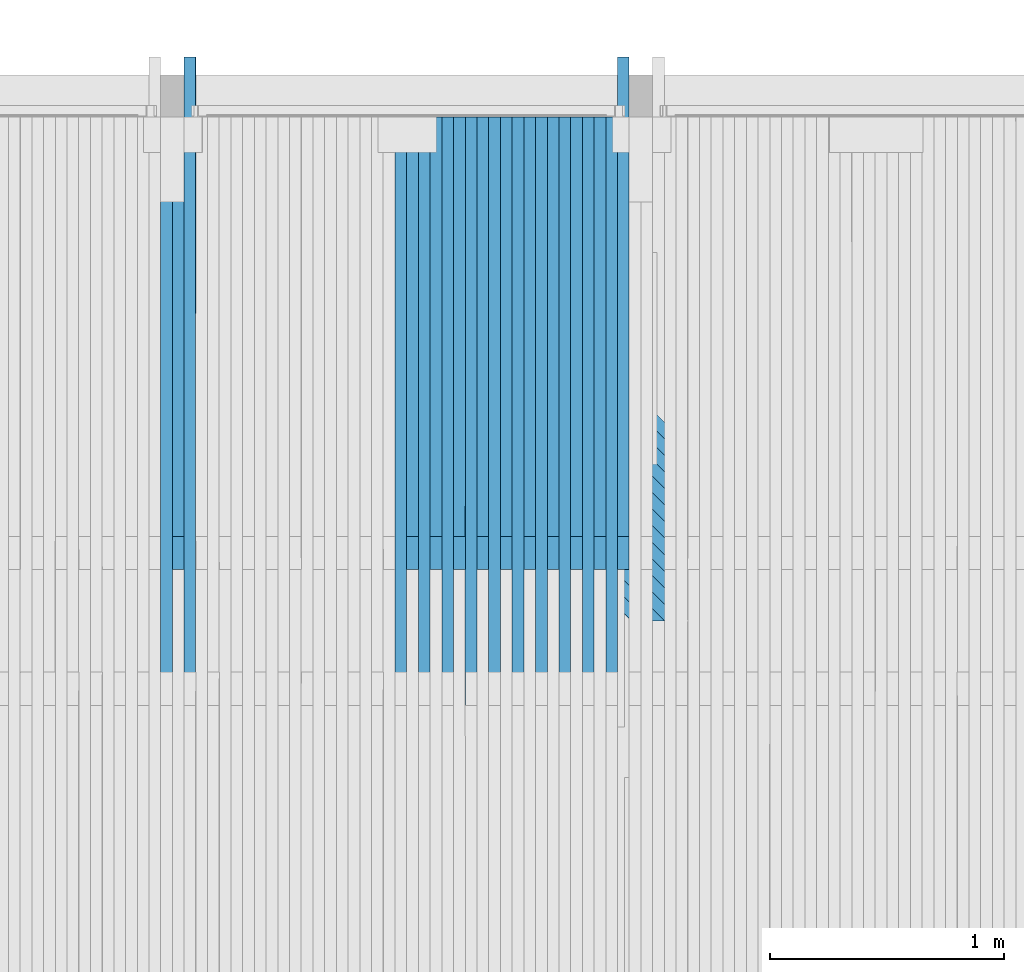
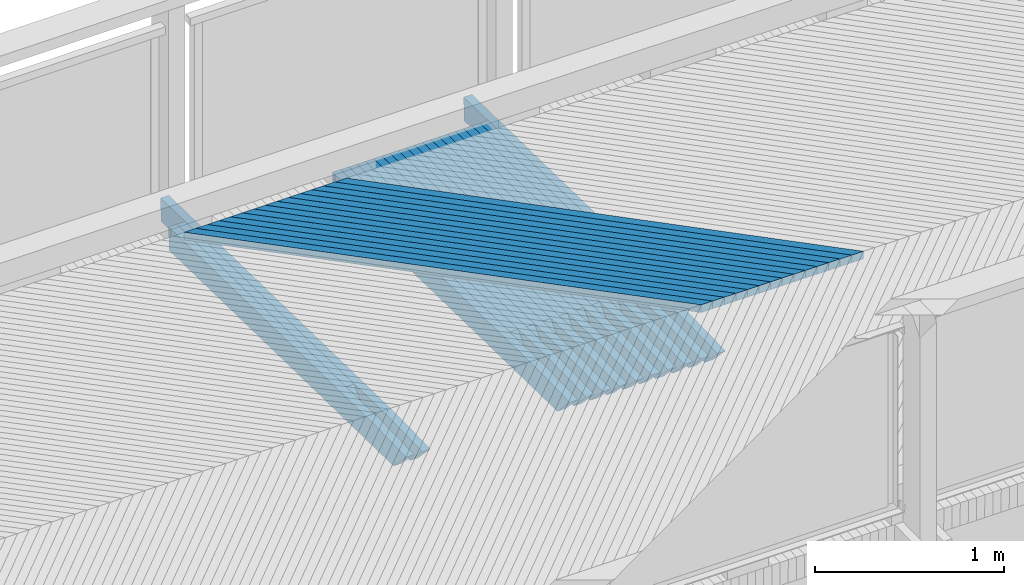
# One storey, part 27 of 65: 37 beams.
"""IFC2X3 building model written with IfcOpenShell, lengths in millimetres."""

from ifc_helpers import new_model, si_unit, frame, origin_with_axes, place, context, subcontext, project, spatial, faceted_brep, material, type_object, element, save


model = new_model("IFC2X3")

# Units and contexts
model_context = context("Model", 3, precision=1e-05, world=origin_with_axes())
body_context = subcontext(model_context, "Body", "Model", "MODEL_VIEW")
ifc_project = project(units=[si_unit("LENGTHUNIT", "METRE", prefix="MILLI"), si_unit("AREAUNIT", "SQUARE_METRE"), si_unit("VOLUMEUNIT", "CUBIC_METRE"), si_unit("MASSUNIT", "GRAM", prefix="KILO"), si_unit("TIMEUNIT", "SECOND"), si_unit("PLANEANGLEUNIT", "RADIAN"), si_unit("SOLIDANGLEUNIT", "STERADIAN"), si_unit("THERMODYNAMICTEMPERATUREUNIT", "DEGREE_CELSIUS"), si_unit("LUMINOUSINTENSITYUNIT", "LUMEN")], contexts=[model_context])

# Site, building, storey
site_placement = place(None, origin_with_axes())
site = spatial("IfcSite", under=ifc_project, at=site_placement, Name="Undefined", CompositionType="ELEMENT")
building_placement = place(site_placement, origin_with_axes())
building = spatial("IfcBuilding", under=site, at=building_placement, Name="Undefined", CompositionType="ELEMENT")
storey_placement = place(building_placement, origin_with_axes())
storey = spatial("IfcBuildingStorey", under=building, at=storey_placement, Name="Undefined", CompositionType="ELEMENT", Elevation=0.0)

# Beams
ifc_material = material(Name="TIMBER/Timber_Undefined")
beam_type_1 = type_object("IfcBeamType", Name="50*50", PredefinedType="NOTDEFINED")
for number, where, z_axis, x_axis, name in (
    (1, (8913.77277485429, 22365.4998996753, 3235.42868074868), (0.707094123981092, 0.706981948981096, -0.0139435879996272), (-0.707119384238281, 0.706948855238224, -0.0143350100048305), "BEAM"),
    (2, (8843.04861667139, 22365.4998996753, 3235.53185944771), (0.707095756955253, 0.70698194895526, -0.013860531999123), (-0.7071176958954, 0.706948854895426, -0.0144180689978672), "BEAM"),
    (3, (8772.32444685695, 22365.4998996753, 3235.62673083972), (0.707097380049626, 0.706981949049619, -0.0137774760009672), (-0.707115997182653, 0.70694885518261, -0.0145011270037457), "BEAM"),
    (4, (8701.60026638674, 22365.4998996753, 3235.71329492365), (0.707098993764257, 0.706981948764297, -0.0136944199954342), (-0.707114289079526, 0.706948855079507, -0.0145841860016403), "BEAM"),
    (5, (8630.87607623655, 22365.4998996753, 3235.79155169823), (0.707100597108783, 0.706981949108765, -0.013611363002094), (-0.707112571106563, 0.706948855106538, -0.0146672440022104), "BEAM"),
    (6, (8560.15187738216, 22365.4998996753, 3235.86150116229), (0.707102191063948, 0.706981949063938, -0.0135283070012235), (-0.707110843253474, 0.706948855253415, -0.0147503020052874), "BEAM"),
    (7, (8489.42767079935, 22365.4998996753, 3235.9231433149), (0.707103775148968, 0.706981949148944, -0.0134452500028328), (-0.707109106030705, 0.706948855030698, -0.0148333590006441), "BEAM"),
    (8, (8418.7034574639, 22365.4998996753, 3235.97647815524), (0.707105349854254, 0.706981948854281, -0.0133621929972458), (-0.70710735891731, 0.706948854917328, -0.0149164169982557), "BEAM"),
    (9, (8347.9792383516, 22365.4998996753, 3236.02150568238), (0.707106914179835, 0.706981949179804, -0.0132791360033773), (-0.707105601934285, 0.7069488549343, -0.014999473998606), "BEAM"),
    (10, (8277.25501443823, 22365.4998996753, 3236.05822589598), (0.707108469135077, 0.706981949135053, -0.0131960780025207), (-0.707103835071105, 0.706948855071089, -0.0150825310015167), "BEAM"),
    (11, (8206.53078669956, 22365.4998996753, 3236.08663879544), (0.707110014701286, 0.706981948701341, -0.0131130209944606), (-0.707102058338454, 0.706948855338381, -0.015165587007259), "BEAM"),
    (12, (8135.80655611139, 22365.4998996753, 3236.10674438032), (0.707111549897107, 0.706981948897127, -0.0130299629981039), (-0.707100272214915, 0.706948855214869, -0.0152486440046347), "BEAM"),
    (13, (8065.0823236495, 22365.4998996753, 3236.11854265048), (0.70711307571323, 0.706981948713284, -0.0129469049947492), (-0.70709847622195, 0.706948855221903, -0.0153317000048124), "BEAM"),
    (14, (7994.35809028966, 22365.4998996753, 3236.12203360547), (0.707114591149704, 0.706981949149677, -0.0128638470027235), (-0.707096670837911, 0.706948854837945, -0.0154147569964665), "BEAM"),
):
    element("IfcBeam", number, at=place(storey_placement, frame(where, z_axis=z_axis, x_axis=x_axis)), inside=storey, type_object=beam_type_1, material=ifc_material, Name=name, ObjectType="50*50", context=body_context, shape_type="Brep", body=[
        faceted_brep([(23.5869248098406, 24.9999999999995, -24.9999999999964), (-26.4154158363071, 24.9999999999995, 24.9999999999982), (2802.92643296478, 25.0, 25.0), (2852.92877373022, 25.0000000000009, -25.0), (-25.0011704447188, -25.0, 24.9999999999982), (2804.34067830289, -25.0, 25.0000000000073), (25.0011701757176, -25.0000000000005, -24.9999999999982), (2854.34301907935, -24.9999999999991, -25.0000000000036)], [[[0, 1, 2, 3]], [[1, 4, 5, 2]], [[4, 6, 7, 5]], [[6, 0, 3, 7]], [[5, 7, 3, 2]], [[6, 4, 1, 0]]]),
    ])
beam_type_2 = type_object("IfcBeamType", Name="150*50", PredefinedType="NOTDEFINED")
for number, where, z_axis, x_axis, name in (
    (15, (7875.75102646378, 24513.4953923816, 3093.13715307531), (-0.000287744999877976, 0.0199960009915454, 0.999800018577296), (-5.75600000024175e-06, -0.999800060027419, 0.0199959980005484), "BEAM"),
    (16, (7775.73099692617, 24513.4953923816, 3093.10819901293), (-0.000453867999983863, 0.0199960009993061, 0.999799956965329), (-9.07800000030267e-06, -0.999800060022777, 0.0199959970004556), "BEAM"),
):
    element("IfcBeam", number, at=place(storey_placement, frame(where, z_axis=z_axis, x_axis=x_axis)), inside=storey, type_object=beam_type_2, material=ifc_material, Name=name, ObjectType="150*50", context=body_context, shape_type="Brep", body=[
        faceted_brep([(-1.6778358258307e-07, -24.9999999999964, -74.9999999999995), (-1.6778358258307e-07, 25.0000000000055, -75.0), (2375.00494422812, 25.0000000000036, -75.0), (2375.00494447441, -24.9999999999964, -74.9999999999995), (1.67790858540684e-07, -24.9999999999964, 75.0000000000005), (1.67790858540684e-07, 25.0000000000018, 74.9999999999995), (2150.42515052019, 25.0000000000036, 74.9999999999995), (2510.59248715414, 25.0000000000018, 60.5875433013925), (2510.59248714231, -24.9999999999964, 60.5875430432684), (2150.42514405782, -24.9999999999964, 75.0000000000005)], [[[0, 1, 2, 3]], [[0, 4, 5, 1]], [[2, 1, 5, 6, 7]], [[3, 2, 7, 8]], [[4, 0, 3, 8, 9]], [[5, 4, 9, 6]], [[8, 7, 6, 9]]]),
    ])
beam_1_placement = place(storey_placement, frame((7825.75102780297, 24513.4953923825, 3093.12259668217), z_axis=(-0.000287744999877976, 0.0199960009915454, 0.999800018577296), x_axis=(-5.75600000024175e-06, -0.999800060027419, 0.0199959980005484)))
element("IfcBeam", 17, at=beam_1_placement, inside=storey, type_object=beam_type_2, material=ifc_material, Name="BEAM", ObjectType="150*50", context=body_context, shape_type="Brep", body=[
    faceted_brep([(-1.6778358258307e-07, -24.9999999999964, -74.9999999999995), (1.67790858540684e-07, -24.9999999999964, 75.0000000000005), (1.67790858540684e-07, 25.0000000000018, 74.9999999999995), (-1.6778358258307e-07, 25.0000000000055, -75.0), (1789.96936408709, 24.9999999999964, 75.0), (1928.42646328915, 24.9999999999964, -75.0), (1928.42646353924, -25.0, -75.0000000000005), (1789.96936433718, -25.0000000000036, 74.9999999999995)], [[[0, 1, 2, 3]], [[3, 2, 4, 5]], [[0, 3, 5, 6]], [[1, 0, 6, 7]], [[2, 1, 7, 4]], [[5, 4, 7, 6]]]),
])
beam_2_placement = place(storey_placement, frame((7675.71097358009, 24513.4953923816, 3093.06262608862), z_axis=(-0.000619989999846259, 0.0199960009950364, 0.999799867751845), x_axis=(-1.24010000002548e-05, -0.99980006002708, 0.0199959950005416)))
element("IfcBeam", 18, at=beam_2_placement, inside=storey, type_object=beam_type_2, material=ifc_material, Name="BEAM", ObjectType="150*50", context=body_context, shape_type="Brep", body=[
    faceted_brep([(-1.6778358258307e-07, -24.9999999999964, -74.9999999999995), (-1.6778358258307e-07, 25.0000000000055, -75.0), (2375.00494422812, 25.0000000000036, -75.0), (2375.00494447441, -24.9999999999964, -74.9999999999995), (1.67790858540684e-07, -24.9999999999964, 75.0000000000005), (1.67790858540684e-07, 25.0000000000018, 74.9999999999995), (2150.42515052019, 25.0000000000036, 74.9999999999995), (2510.59248715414, 25.0000000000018, 60.5875433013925), (2510.59248714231, -24.9999999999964, 60.5875430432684), (2150.42514405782, -24.9999999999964, 75.0000000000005)], [[[0, 1, 2, 3]], [[0, 4, 5, 1]], [[2, 1, 5, 6, 7]], [[3, 2, 7, 8]], [[4, 0, 3, 8, 9]], [[5, 4, 9, 6]], [[8, 7, 6, 9]]]),
])
beam_3_placement = place(storey_placement, frame((7725.73100137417, 24513.4953923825, 3093.08533485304), z_axis=(-0.000453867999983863, 0.0199960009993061, 0.999799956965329), x_axis=(-9.07800000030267e-06, -0.999800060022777, 0.0199959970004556)))
element("IfcBeam", 19, at=beam_3_placement, inside=storey, type_object=beam_type_2, material=ifc_material, Name="BEAM", ObjectType="150*50", context=body_context, shape_type="Brep", body=[
    faceted_brep([(-1.6778358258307e-07, -24.9999999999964, -74.9999999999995), (1.67790858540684e-07, -24.9999999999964, 75.0000000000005), (1.67790858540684e-07, 25.0000000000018, 74.9999999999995), (-1.6778358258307e-07, 25.0000000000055, -75.0), (1789.96936408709, 24.9999999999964, 75.0), (1928.42646328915, 24.9999999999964, -75.0), (1928.42646353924, -25.0, -75.0000000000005), (1789.96936433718, -25.0000000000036, 74.9999999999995)], [[[0, 1, 2, 3]], [[3, 2, 4, 5]], [[0, 3, 5, 6]], [[1, 0, 6, 7]], [[2, 1, 7, 4]], [[5, 4, 7, 6]]]),
])
beam_4_placement = place(storey_placement, frame((7575.69095918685, 24513.4953923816, 3093.00043430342), z_axis=(-0.00078611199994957, 0.0199960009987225, 0.999799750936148), x_axis=(-1.57230000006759e-05, -0.999800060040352, 0.019995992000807)))
element("IfcBeam", 20, at=beam_4_placement, inside=storey, type_object=beam_type_2, material=ifc_material, Name="BEAM", ObjectType="150*50", context=body_context, shape_type="Brep", body=[
    faceted_brep([(-1.6778358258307e-07, -24.9999999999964, -74.9999999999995), (-1.6778358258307e-07, 25.0000000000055, -75.0), (2375.00494422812, 25.0000000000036, -75.0), (2375.00494447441, -24.9999999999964, -74.9999999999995), (1.67790858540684e-07, -24.9999999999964, 75.0000000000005), (1.67790858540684e-07, 25.0000000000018, 74.9999999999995), (2150.42515052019, 25.0000000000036, 74.9999999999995), (2510.59248715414, 25.0000000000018, 60.5875433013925), (2510.59248714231, -24.9999999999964, 60.5875430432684), (2150.42514405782, -24.9999999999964, 75.0000000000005)], [[[0, 1, 2, 3]], [[0, 4, 5, 1]], [[2, 1, 5, 6, 7]], [[3, 2, 7, 8]], [[4, 0, 3, 8, 9]], [[5, 4, 9, 6]], [[8, 7, 6, 9]]]),
])
beam_5_placement = place(storey_placement, frame((7625.71098251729, 24513.4953923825, 3093.03145416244), z_axis=(-0.000619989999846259, 0.0199960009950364, 0.999799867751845), x_axis=(-1.24010000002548e-05, -0.99980006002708, 0.0199959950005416)))
element("IfcBeam", 21, at=beam_5_placement, inside=storey, type_object=beam_type_2, material=ifc_material, Name="BEAM", ObjectType="150*50", context=body_context, shape_type="Brep", body=[
    faceted_brep([(-1.6778358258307e-07, -24.9999999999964, -74.9999999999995), (1.67790858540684e-07, -24.9999999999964, 75.0000000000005), (1.67790858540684e-07, 25.0000000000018, 74.9999999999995), (-1.6778358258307e-07, 25.0000000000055, -75.0), (1789.96936408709, 24.9999999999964, 75.0), (1928.42646328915, 24.9999999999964, -75.0), (1928.42646353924, -25.0, -75.0000000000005), (1789.96936433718, -25.0000000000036, 74.9999999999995)], [[[0, 1, 2, 3]], [[3, 2, 4, 5]], [[0, 3, 5, 6]], [[1, 0, 6, 7]], [[2, 1, 7, 4]], [[5, 4, 7, 6]]]),
])
beam_6_placement = place(storey_placement, frame((7475.67095650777, 24513.4953923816, 3092.92162365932), z_axis=(-0.000952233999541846, 0.0199960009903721, 0.999799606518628), x_axis=(-1.90460000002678e-05, -0.999800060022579, 0.0199959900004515)))
element("IfcBeam", 22, at=beam_6_placement, inside=storey, type_object=beam_type_2, material=ifc_material, Name="BEAM", ObjectType="150*50", context=body_context, shape_type="Brep", body=[
    faceted_brep([(-1.6778358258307e-07, -24.9999999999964, -74.9999999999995), (-1.6778358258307e-07, 25.0000000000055, -75.0), (2375.00494422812, 25.0000000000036, -75.0), (2375.00494447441, -24.9999999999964, -74.9999999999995), (1.67790858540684e-07, -24.9999999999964, 75.0000000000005), (1.67790858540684e-07, 25.0000000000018, 74.9999999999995), (2150.42515052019, 25.0000000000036, 74.9999999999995), (2510.59248715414, 25.0000000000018, 60.5875433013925), (2510.59248714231, -24.9999999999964, 60.5875430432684), (2150.42514405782, -24.9999999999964, 75.0000000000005)], [[[0, 1, 2, 3]], [[0, 4, 5, 1]], [[2, 1, 5, 6, 7]], [[3, 2, 7, 8]], [[4, 0, 3, 8, 9]], [[5, 4, 9, 6]], [[8, 7, 6, 9]]]),
])
beam_7_placement = place(storey_placement, frame((7525.69097399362, 24513.4953923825, 3092.96095461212), z_axis=(-0.00078611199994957, 0.0199960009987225, 0.999799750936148), x_axis=(-1.57230000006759e-05, -0.999800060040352, 0.019995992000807)))
element("IfcBeam", 23, at=beam_7_placement, inside=storey, type_object=beam_type_2, material=ifc_material, Name="BEAM", ObjectType="150*50", context=body_context, shape_type="Brep", body=[
    faceted_brep([(-1.6778358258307e-07, -24.9999999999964, -74.9999999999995), (1.67790858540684e-07, -24.9999999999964, 75.0000000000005), (1.67790858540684e-07, 25.0000000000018, 74.9999999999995), (-1.6778358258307e-07, 25.0000000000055, -75.0), (1789.96936408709, 24.9999999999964, 75.0), (1928.42646328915, 24.9999999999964, -75.0), (1928.42646353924, -25.0, -75.0000000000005), (1789.96936433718, -25.0000000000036, 74.9999999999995)], [[[0, 1, 2, 3]], [[3, 2, 4, 5]], [[0, 3, 5, 6]], [[1, 0, 6, 7]], [[2, 1, 7, 4]], [[5, 4, 7, 6]]]),
])
beam_8_placement = place(storey_placement, frame((7375.65096830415, 24513.4953923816, 3092.82619415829), z_axis=(-0.00111835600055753, 0.019996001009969, 0.999799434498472), x_axis=(-2.23680000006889e-05, -0.999800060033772, 0.0199959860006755)))
element("IfcBeam", 24, at=beam_8_placement, inside=storey, type_object=beam_type_2, material=ifc_material, Name="BEAM", ObjectType="150*50", context=body_context, shape_type="Brep", body=[
    faceted_brep([(-1.6778358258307e-07, -24.9999999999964, -74.9999999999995), (-1.6778358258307e-07, 25.0000000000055, -75.0), (2375.00494422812, 25.0000000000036, -75.0), (2375.00494447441, -24.9999999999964, -74.9999999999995), (1.67790858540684e-07, -24.9999999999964, 75.0000000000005), (1.67790858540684e-07, 25.0000000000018, 74.9999999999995), (2150.42515052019, 25.0000000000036, 74.9999999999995), (2510.59248715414, 25.0000000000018, 60.5875433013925), (2510.59248714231, -24.9999999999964, 60.5875430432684), (2150.42514405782, -24.9999999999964, 75.0000000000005)], [[[0, 1, 2, 3]], [[0, 4, 5, 1]], [[2, 1, 5, 6, 7]], [[3, 2, 7, 8]], [[4, 0, 3, 8, 9]], [[5, 4, 9, 6]], [[8, 7, 6, 9]]]),
])
beam_9_placement = place(storey_placement, frame((7425.67097856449, 24513.4953923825, 3092.87383620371), z_axis=(-0.000952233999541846, 0.0199960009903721, 0.999799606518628), x_axis=(-1.90460000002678e-05, -0.999800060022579, 0.0199959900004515)))
element("IfcBeam", 25, at=beam_9_placement, inside=storey, type_object=beam_type_2, material=ifc_material, Name="BEAM", ObjectType="150*50", context=body_context, shape_type="Brep", body=[
    faceted_brep([(-1.6778358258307e-07, -24.9999999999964, -74.9999999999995), (1.67790858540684e-07, -24.9999999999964, 75.0000000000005), (1.67790858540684e-07, 25.0000000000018, 74.9999999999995), (-1.6778358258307e-07, 25.0000000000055, -75.0), (1789.96936408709, 24.9999999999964, 75.0), (1928.42646328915, 24.9999999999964, -75.0), (1928.42646353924, -25.0, -75.0000000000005), (1789.96936433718, -25.0000000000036, 74.9999999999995)], [[[0, 1, 2, 3]], [[3, 2, 4, 5]], [[0, 3, 5, 6]], [[1, 0, 6, 7]], [[2, 1, 7, 4]], [[5, 4, 7, 6]]]),
])
beam_10_placement = place(storey_placement, frame((7275.63099733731, 24513.4953923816, 3092.71414580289), z_axis=(-0.00128447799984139, 0.0199960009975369, 0.99979923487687), x_axis=(-2.56900000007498e-05, -0.999800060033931, 0.0199959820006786)))
element("IfcBeam", 26, at=beam_10_placement, inside=storey, type_object=beam_type_2, material=ifc_material, Name="BEAM", ObjectType="150*50", context=body_context, shape_type="Brep", body=[
    faceted_brep([(-1.6778358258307e-07, -24.9999999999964, -74.9999999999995), (-1.6778358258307e-07, 25.0000000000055, -75.0), (2375.00494422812, 25.0000000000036, -75.0), (2375.00494447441, -24.9999999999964, -74.9999999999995), (1.67790858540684e-07, -24.9999999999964, 75.0000000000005), (1.67790858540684e-07, 25.0000000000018, 74.9999999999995), (2150.42515052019, 25.0000000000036, 74.9999999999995), (2510.59248715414, 25.0000000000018, 60.5875433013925), (2510.59248714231, -24.9999999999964, 60.5875430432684), (2150.42514405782, -24.9999999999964, 75.0000000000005)], [[[0, 1, 2, 3]], [[0, 4, 5, 1]], [[2, 1, 5, 6, 7]], [[3, 2, 7, 8]], [[4, 0, 3, 8, 9]], [[5, 4, 9, 6]], [[8, 7, 6, 9]]]),
])
beam_11_placement = place(storey_placement, frame((7325.6509989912, 24513.4953923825, 3092.77009893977), z_axis=(-0.00111835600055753, 0.019996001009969, 0.999799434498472), x_axis=(-2.23680000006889e-05, -0.999800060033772, 0.0199959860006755)))
element("IfcBeam", 27, at=beam_11_placement, inside=storey, type_object=beam_type_2, material=ifc_material, Name="BEAM", ObjectType="150*50", context=body_context, shape_type="Brep", body=[
    faceted_brep([(-1.6778358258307e-07, -24.9999999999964, -74.9999999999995), (1.67790858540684e-07, -24.9999999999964, 75.0000000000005), (1.67790858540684e-07, 25.0000000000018, 74.9999999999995), (-1.6778358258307e-07, 25.0000000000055, -75.0), (1789.96936408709, 24.9999999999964, 75.0), (1928.42646328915, 24.9999999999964, -75.0), (1928.42646353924, -25.0, -75.0000000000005), (1789.96936433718, -25.0000000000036, 74.9999999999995)], [[[0, 1, 2, 3]], [[3, 2, 4, 5]], [[0, 3, 5, 6]], [[1, 0, 6, 7]], [[2, 1, 7, 4]], [[5, 4, 7, 6]]]),
])
beam_12_placement = place(storey_placement, frame((7175.61104636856, 24513.4953923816, 3092.58547859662), z_axis=(-0.00145059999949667, 0.0199960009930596, 0.999799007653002), x_axis=(-2.90130000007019e-05, -0.999800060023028, 0.0199959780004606)))
element("IfcBeam", 28, at=beam_12_placement, inside=storey, type_object=beam_type_2, material=ifc_material, Name="BEAM", ObjectType="150*50", context=body_context, shape_type="Brep", body=[
    faceted_brep([(-1.6778358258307e-07, -24.9999999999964, -74.9999999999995), (-1.6778358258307e-07, 25.0000000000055, -75.0), (2375.00494422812, 25.0000000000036, -75.0), (2375.00494447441, -24.9999999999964, -74.9999999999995), (1.67790858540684e-07, -24.9999999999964, 75.0000000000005), (1.67790858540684e-07, 25.0000000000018, 74.9999999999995), (2150.42515052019, 25.0000000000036, 74.9999999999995), (2510.59248715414, 25.0000000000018, 60.5875433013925), (2510.59248714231, -24.9999999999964, 60.5875430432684), (2150.42514405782, -24.9999999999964, 75.0000000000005)], [[[0, 1, 2, 3]], [[0, 4, 5, 1]], [[2, 1, 5, 6, 7]], [[3, 2, 7, 8]], [[4, 0, 3, 8, 9]], [[5, 4, 9, 6]], [[8, 7, 6, 9]]]),
])
beam_13_placement = place(storey_placement, frame((7225.63103803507, 24513.4953923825, 3092.64974282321), z_axis=(-0.00128447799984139, 0.0199960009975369, 0.99979923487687), x_axis=(-2.56900000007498e-05, -0.999800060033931, 0.0199959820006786)))
element("IfcBeam", 29, at=beam_13_placement, inside=storey, type_object=beam_type_2, material=ifc_material, Name="BEAM", ObjectType="150*50", context=body_context, shape_type="Brep", body=[
    faceted_brep([(-1.6778358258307e-07, -24.9999999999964, -74.9999999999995), (1.67790858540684e-07, -24.9999999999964, 75.0000000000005), (1.67790858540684e-07, 25.0000000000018, 74.9999999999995), (-1.6778358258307e-07, 25.0000000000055, -75.0), (1789.96936408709, 24.9999999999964, 75.0), (1928.42646328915, 24.9999999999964, -75.0), (1928.42646353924, -25.0, -75.0000000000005), (1789.96936433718, -25.0000000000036, 74.9999999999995)], [[[0, 1, 2, 3]], [[3, 2, 4, 5]], [[0, 3, 5, 6]], [[1, 0, 6, 7]], [[2, 1, 7, 4]], [[5, 4, 7, 6]]]),
])
beam_14_placement = place(storey_placement, frame((7075.5911181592, 24513.4953923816, 3092.44019254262), z_axis=(-0.00161672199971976, 0.0199960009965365, 0.999798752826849), x_axis=(-3.23350000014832e-05, -0.999800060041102, 0.019995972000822)))
element("IfcBeam", 30, at=beam_14_placement, inside=storey, type_object=beam_type_2, material=ifc_material, Name="BEAM", ObjectType="150*50", context=body_context, shape_type="Brep", body=[
    faceted_brep([(-1.6778358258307e-07, -24.9999999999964, -74.9999999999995), (-1.6778358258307e-07, 25.0000000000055, -75.0), (2375.00494422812, 25.0000000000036, -75.0), (2375.00494447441, -24.9999999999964, -74.9999999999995), (1.67790858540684e-07, -24.9999999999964, 75.0000000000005), (1.67790858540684e-07, 25.0000000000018, 74.9999999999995), (2150.42515052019, 25.0000000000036, 74.9999999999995), (2510.59248715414, 25.0000000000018, 60.5875433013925), (2510.59248714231, -24.9999999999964, 60.5875430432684), (2150.42514405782, -24.9999999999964, 75.0000000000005)], [[[0, 1, 2, 3]], [[0, 4, 5, 1]], [[2, 1, 5, 6, 7]], [[3, 2, 7, 8]], [[4, 0, 3, 8, 9]], [[5, 4, 9, 6]], [[8, 7, 6, 9]]]),
])
beam_15_placement = place(storey_placement, frame((7125.61109845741, 24513.4953923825, 3092.51276785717), z_axis=(-0.00145059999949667, 0.0199960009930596, 0.999799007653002), x_axis=(-2.90130000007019e-05, -0.999800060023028, 0.0199959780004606)))
element("IfcBeam", 31, at=beam_15_placement, inside=storey, type_object=beam_type_2, material=ifc_material, Name="BEAM", ObjectType="150*50", context=body_context, shape_type="Brep", body=[
    faceted_brep([(-1.6778358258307e-07, -24.9999999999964, -74.9999999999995), (1.67790858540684e-07, -24.9999999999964, 75.0000000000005), (1.67790858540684e-07, 25.0000000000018, 74.9999999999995), (-1.6778358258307e-07, 25.0000000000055, -75.0), (1789.96936408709, 24.9999999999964, 75.0), (1928.42646328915, 24.9999999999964, -75.0), (1928.42646353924, -25.0, -75.0000000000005), (1789.96936433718, -25.0000000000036, 74.9999999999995)], [[[0, 1, 2, 3]], [[3, 2, 4, 5]], [[0, 3, 5, 6]], [[1, 0, 6, 7]], [[2, 1, 7, 4]], [[5, 4, 7, 6]]]),
])
beam_16_placement = place(storey_placement, frame((6975.57121547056, 24513.4953923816, 3092.27828764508), z_axis=(-0.0017828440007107, 0.0199960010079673, 0.999798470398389), x_axis=(-3.56580000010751e-05, -0.999800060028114, 0.0199959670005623)))
element("IfcBeam", 32, at=beam_16_placement, inside=storey, type_object=beam_type_2, material=ifc_material, Name="BEAM", ObjectType="150*50", context=body_context, shape_type="Brep", body=[
    faceted_brep([(-1.6778358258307e-07, -24.9999999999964, -74.9999999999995), (-1.6778358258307e-07, 25.0000000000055, -75.0), (2375.00494422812, 25.0000000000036, -75.0), (2375.00494447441, -24.9999999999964, -74.9999999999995), (1.67790858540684e-07, -24.9999999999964, 75.0000000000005), (1.67790858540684e-07, 25.0000000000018, 74.9999999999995), (2150.42515052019, 25.0000000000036, 74.9999999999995), (2510.59248715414, 25.0000000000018, 60.5875433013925), (2510.59248714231, -24.9999999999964, 60.5875430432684), (2150.42514405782, -24.9999999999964, 75.0000000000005)], [[[0, 1, 2, 3]], [[0, 4, 5, 1]], [[2, 1, 5, 6, 7]], [[3, 2, 7, 8]], [[4, 0, 3, 8, 9]], [[5, 4, 9, 6]], [[8, 7, 6, 9]]]),
])
beam_17_placement = place(storey_placement, frame((7025.59118301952, 24513.4953923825, 3092.35917404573), z_axis=(-0.00161672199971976, 0.0199960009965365, 0.999798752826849), x_axis=(-3.23350000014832e-05, -0.999800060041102, 0.019995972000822)))
element("IfcBeam", 33, at=beam_17_placement, inside=storey, type_object=beam_type_2, material=ifc_material, Name="BEAM", ObjectType="150*50", context=body_context, shape_type="Brep", body=[
    faceted_brep([(-1.6778358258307e-07, -24.9999999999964, -74.9999999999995), (1.67790858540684e-07, -24.9999999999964, 75.0000000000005), (1.67790858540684e-07, 25.0000000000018, 74.9999999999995), (-1.6778358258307e-07, 25.0000000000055, -75.0), (1789.96936408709, 24.9999999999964, 75.0), (1928.42646328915, 24.9999999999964, -75.0), (1928.42646353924, -25.0, -75.0000000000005), (1789.96936433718, -25.0000000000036, 74.9999999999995)], [[[0, 1, 2, 3]], [[3, 2, 4, 5]], [[0, 3, 5, 6]], [[1, 0, 6, 7]], [[2, 1, 7, 4]], [[5, 4, 7, 6]]]),
])
beam_18_placement = place(storey_placement, frame((5975.37419971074, 24513.4953923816, 3089.74520348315), z_axis=(-0.00344405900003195, 0.0199960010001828, 0.999794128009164), x_axis=(-6.88820000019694e-05, -0.99980006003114, 0.0199958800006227)))
element("IfcBeam", 34, at=beam_18_placement, inside=storey, type_object=beam_type_2, material=ifc_material, Name="BEAM", ObjectType="150*50", context=body_context, shape_type="Brep", body=[
    faceted_brep([(-1.6778358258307e-07, -24.9999999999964, -74.9999999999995), (-1.6778358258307e-07, 25.0000000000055, -75.0), (2375.00494422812, 25.0000000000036, -75.0), (2375.00494447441, -24.9999999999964, -74.9999999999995), (1.67790858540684e-07, -24.9999999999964, 75.0000000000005), (1.67790858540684e-07, 25.0000000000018, 74.9999999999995), (2150.42515052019, 25.0000000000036, 74.9999999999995), (2510.59248715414, 25.0000000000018, 60.5875433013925), (2510.59248714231, -24.9999999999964, 60.5875430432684), (2150.42514405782, -24.9999999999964, 75.0000000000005)], [[[0, 1, 2, 3]], [[0, 4, 5, 1]], [[2, 1, 5, 6, 7]], [[3, 2, 7, 8]], [[4, 0, 3, 8, 9]], [[5, 4, 9, 6]], [[8, 7, 6, 9]]]),
])
beam_19_placement = place(storey_placement, frame((6025.39396381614, 24513.4953923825, 3089.90920058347), z_axis=(-0.00327793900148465, 0.0199960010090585, 0.999794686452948), x_axis=(-6.55590000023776e-05, -0.999800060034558, 0.0199958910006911)))
element("IfcBeam", 35, at=beam_19_placement, inside=storey, type_object=beam_type_2, material=ifc_material, Name="BEAM", ObjectType="150*50", context=body_context, shape_type="Brep", body=[
    faceted_brep([(-1.6778358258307e-07, -24.9999999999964, -74.9999999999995), (1.67790858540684e-07, -24.9999999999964, 75.0000000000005), (1.67790858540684e-07, 25.0000000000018, 74.9999999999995), (-1.6778358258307e-07, 25.0000000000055, -75.0), (1928.42646328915, 24.9999999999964, -75.0), (1928.42646353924, -25.0, -75.0000000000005), (1789.96936433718, -25.0000000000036, 74.9999999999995), (1789.96936408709, 24.9999999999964, 75.0)], [[[0, 1, 2, 3]], [[0, 3, 4, 5]], [[1, 0, 5, 6]], [[2, 1, 6, 7]], [[3, 2, 7, 4]], [[4, 7, 6, 5]]]),
])
beam_20_placement = place(storey_placement, frame((7925.15058060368, 24771.443807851, 3087.98372204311), z_axis=(-0.000121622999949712, 0.0199960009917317, 0.999800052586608), x_axis=(-2.43299999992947e-06, -0.999800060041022, 0.0199959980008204)))
element("IfcBeam", 36, at=beam_20_placement, inside=storey, type_object=beam_type_2, material=ifc_material, Name="BEAM", ObjectType="150*50", context=body_context, shape_type="Brep", body=[
    faceted_brep([(-1.6778358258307e-07, -24.9999999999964, -74.9999999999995), (1.67790858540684e-07, -24.9999999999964, 75.0000000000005), (1.67790858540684e-07, 25.0000000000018, 74.9999999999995), (-1.6778358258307e-07, 25.0000000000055, -75.0), (2047.9693678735, 24.9999999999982, 75.0), (2186.42646676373, 24.9999999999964, -74.9999999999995), (2186.42645144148, -25.0000000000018, -75.0), (2047.96935255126, -25.0000000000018, 75.0000000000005)], [[[0, 1, 2, 3]], [[3, 2, 4, 5]], [[0, 3, 5, 6]], [[1, 0, 6, 7]], [[2, 1, 7, 4]], [[5, 4, 7, 6]]]),
])
beam_21_placement = place(storey_placement, frame((6075.29542450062, 24771.443807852, 3084.91318306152), z_axis=(-0.00327793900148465, 0.0199960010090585, 0.999794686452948), x_axis=(-6.55590000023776e-05, -0.999800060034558, 0.0199958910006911)))
element("IfcBeam", 37, at=beam_21_placement, inside=storey, type_object=beam_type_2, material=ifc_material, Name="BEAM", ObjectType="150*50", context=body_context, shape_type="Brep", body=[
    faceted_brep([(-1.6778358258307e-07, -24.9999999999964, -74.9999999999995), (-1.6778358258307e-07, 25.0000000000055, -75.0), (2633.00494750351, 24.9999999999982, -74.9999999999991), (2633.00494763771, -25.0000000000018, -74.9999999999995), (1.67790858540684e-07, -24.9999999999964, 75.0000000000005), (1.67790858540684e-07, 25.0000000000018, 74.9999999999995), (2408.42506824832, 24.9999999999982, 75.0000000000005), (2768.59248710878, 24.9999999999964, 60.587539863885), (2768.59248713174, -25.0000000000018, 60.5875397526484), (2408.42506549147, -25.0000000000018, 75.0000000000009)], [[[0, 1, 2, 3]], [[0, 4, 5, 1]], [[2, 1, 5, 6, 7]], [[3, 2, 7, 8]], [[4, 0, 3, 8, 9]], [[5, 4, 9, 6]], [[8, 7, 6, 9]]]),
])

save(model, "model.ifc")
